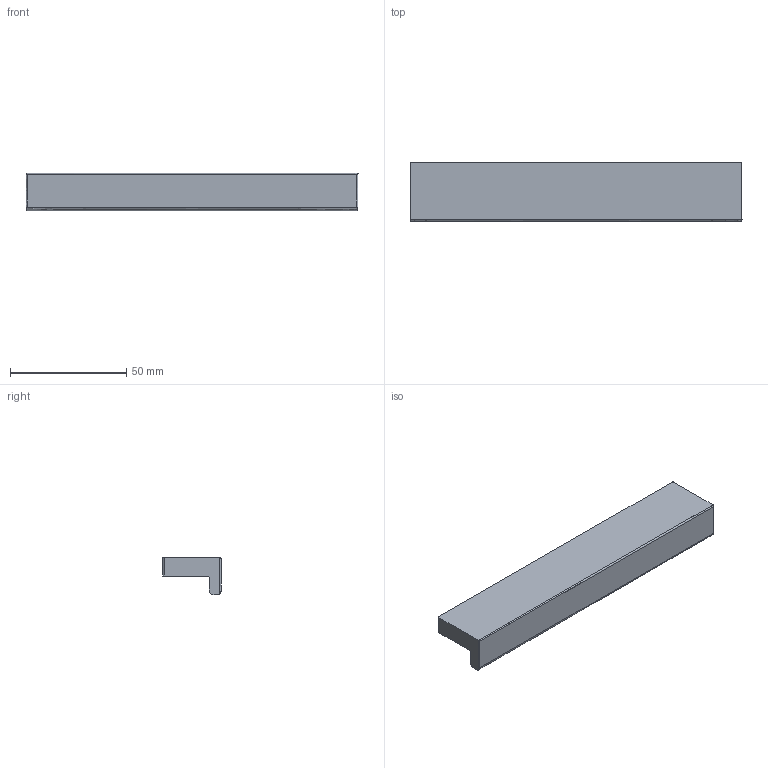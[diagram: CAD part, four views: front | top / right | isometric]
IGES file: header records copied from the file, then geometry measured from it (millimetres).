
Start section: Data from Parasolid IGES Translator 20.0.26, Copyright(c) 2006 Siemens P LM Software. All Rights Reserved.
Global section: file name: 9204023.igs; native system: By Siemens PLM Incorporated; preprocessor: XPlus GENERIC/IGES 20.0.26; author: Noname; organization: Noname; date: 20231204.173425; units: millimetre
Bounding box: 143.01 x 25 x 16 mm (x, y, z)
Surface area: 12169.4 mm2 (no closed solid volume)
Topology: 0 solids, 0 shells, 20 faces, 92 edges, 90 vertices
Faces by surface type: extrusion 10, revolution 10
